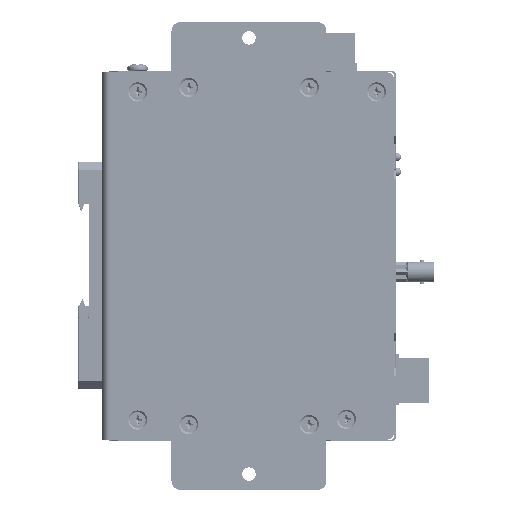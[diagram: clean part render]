
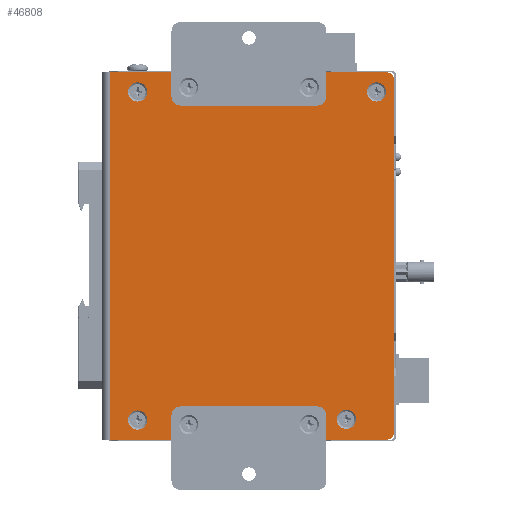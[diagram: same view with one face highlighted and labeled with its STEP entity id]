
A CAD part, left-side view. The second image highlights one B-rep face of the part: STEP entity #46808.
In plain terms, the highlighted planar face has unit normal (-1, 0, 0).
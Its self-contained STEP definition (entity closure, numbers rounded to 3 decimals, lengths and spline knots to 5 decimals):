
#2273=CIRCLE('',#54056,0.00324);
#2274=CIRCLE('',#54057,0.00324);
#2275=CIRCLE('',#54058,0.00324);
#2276=CIRCLE('',#54059,0.00324);
#2277=CIRCLE('',#54060,0.00324);
#2278=CIRCLE('',#54061,0.00324);
#2279=CIRCLE('',#54062,0.00324);
#2280=CIRCLE('',#54063,0.00324);
#2281=CIRCLE('',#54064,0.00254);
#2282=CIRCLE('',#54065,0.00254);
#4222=LINE('',#74973,#8763);
#4226=LINE('',#74982,#8767);
#4232=LINE('',#74996,#8773);
#4234=LINE('',#75018,#8775);
#8763=VECTOR('',#59066,1.);
#8767=VECTOR('',#59072,1.);
#8773=VECTOR('',#59080,1.);
#8775=VECTOR('',#59104,1.);
#14386=ORIENTED_EDGE('',*,*,#26967,.F.);
#14387=ORIENTED_EDGE('',*,*,#26968,.F.);
#14388=ORIENTED_EDGE('',*,*,#26969,.F.);
#14389=ORIENTED_EDGE('',*,*,#26970,.F.);
#14390=ORIENTED_EDGE('',*,*,#26971,.F.);
#14391=ORIENTED_EDGE('',*,*,#26972,.F.);
#14392=ORIENTED_EDGE('',*,*,#26973,.F.);
#14393=ORIENTED_EDGE('',*,*,#26974,.F.);
#14394=ORIENTED_EDGE('',*,*,#26965,.F.);
#14395=ORIENTED_EDGE('',*,*,#26975,.T.);
#14396=ORIENTED_EDGE('',*,*,#26955,.T.);
#14397=ORIENTED_EDGE('',*,*,#26976,.T.);
#14398=ORIENTED_EDGE('',*,*,#26959,.T.);
#14399=ORIENTED_EDGE('',*,*,#26977,.F.);
#26955=EDGE_CURVE('',#33414,#33415,#4222,.T.);
#26959=EDGE_CURVE('',#33418,#33419,#4226,.T.);
#26965=EDGE_CURVE('',#33424,#33425,#4232,.T.);
#26967=EDGE_CURVE('',#33426,#33426,#2273,.T.);
#26968=EDGE_CURVE('',#33427,#33427,#2274,.T.);
#26969=EDGE_CURVE('',#33428,#33428,#2275,.T.);
#26970=EDGE_CURVE('',#33429,#33429,#2276,.T.);
#26971=EDGE_CURVE('',#33430,#33430,#2277,.T.);
#26972=EDGE_CURVE('',#33431,#33431,#2278,.T.);
#26973=EDGE_CURVE('',#33432,#33432,#2279,.T.);
#26974=EDGE_CURVE('',#33433,#33433,#2280,.T.);
#26975=EDGE_CURVE('',#33424,#33414,#2281,.T.);
#26976=EDGE_CURVE('',#33415,#33418,#2282,.T.);
#26977=EDGE_CURVE('',#33425,#33419,#4234,.F.);
#33414=VERTEX_POINT('',#74974);
#33415=VERTEX_POINT('',#74975);
#33418=VERTEX_POINT('',#74983);
#33419=VERTEX_POINT('',#74984);
#33424=VERTEX_POINT('',#74995);
#33425=VERTEX_POINT('',#74997);
#33426=VERTEX_POINT('',#75001);
#33427=VERTEX_POINT('',#75003);
#33428=VERTEX_POINT('',#75005);
#33429=VERTEX_POINT('',#75007);
#33430=VERTEX_POINT('',#75009);
#33431=VERTEX_POINT('',#75011);
#33432=VERTEX_POINT('',#75013);
#33433=VERTEX_POINT('',#75015);
#38167=EDGE_LOOP('',(#14386));
#38168=EDGE_LOOP('',(#14387));
#38169=EDGE_LOOP('',(#14388));
#38170=EDGE_LOOP('',(#14389));
#38171=EDGE_LOOP('',(#14390));
#38172=EDGE_LOOP('',(#14391));
#38173=EDGE_LOOP('',(#14392));
#38174=EDGE_LOOP('',(#14393));
#38175=EDGE_LOOP('',(#14394,#14395,#14396,#14397,#14398,#14399));
#41652=FACE_BOUND('',#38167,.T.);
#41653=FACE_BOUND('',#38168,.T.);
#41654=FACE_BOUND('',#38169,.T.);
#41655=FACE_BOUND('',#38170,.T.);
#41656=FACE_BOUND('',#38171,.T.);
#41657=FACE_BOUND('',#38172,.T.);
#41658=FACE_BOUND('',#38173,.T.);
#41659=FACE_BOUND('',#38174,.T.);
#41660=FACE_BOUND('',#38175,.T.);
#44998=PLANE('',#54055);
#46808=ADVANCED_FACE('',(#41652,#41653,#41654,#41655,#41656,#41657,#41658,
#41659,#41660),#44998,.T.);
#54055=AXIS2_PLACEMENT_3D('',#74999,#59082,#59083);
#54056=AXIS2_PLACEMENT_3D('',#75000,#59084,#59085);
#54057=AXIS2_PLACEMENT_3D('',#75002,#59086,#59087);
#54058=AXIS2_PLACEMENT_3D('',#75004,#59088,#59089);
#54059=AXIS2_PLACEMENT_3D('',#75006,#59090,#59091);
#54060=AXIS2_PLACEMENT_3D('',#75008,#59092,#59093);
#54061=AXIS2_PLACEMENT_3D('',#75010,#59094,#59095);
#54062=AXIS2_PLACEMENT_3D('',#75012,#59096,#59097);
#54063=AXIS2_PLACEMENT_3D('',#75014,#59098,#59099);
#54064=AXIS2_PLACEMENT_3D('',#75016,#59100,#59101);
#54065=AXIS2_PLACEMENT_3D('',#75017,#59102,#59103);
#59066=DIRECTION('',(0.,0.,1.));
#59072=DIRECTION('',(0.,1.,0.));
#59080=DIRECTION('',(0.,1.,0.));
#59082=DIRECTION('',(-1.,0.,0.));
#59083=DIRECTION('',(0.,0.,1.));
#59084=DIRECTION('',(-1.,0.,0.));
#59085=DIRECTION('',(0.,0.,1.));
#59086=DIRECTION('',(-1.,0.,0.));
#59087=DIRECTION('',(0.,0.,1.));
#59088=DIRECTION('',(-1.,0.,0.));
#59089=DIRECTION('',(0.,0.,1.));
#59090=DIRECTION('',(-1.,0.,0.));
#59091=DIRECTION('',(0.,0.,1.));
#59092=DIRECTION('',(-1.,0.,0.));
#59093=DIRECTION('',(0.,0.,1.));
#59094=DIRECTION('',(-1.,0.,0.));
#59095=DIRECTION('',(0.,0.,1.));
#59096=DIRECTION('',(-1.,0.,0.));
#59097=DIRECTION('',(0.,0.,1.));
#59098=DIRECTION('',(-1.,0.,0.));
#59099=DIRECTION('',(0.,0.,1.));
#59100=DIRECTION('',(-1.,0.,0.));
#59101=DIRECTION('',(0.,0.,1.));
#59102=DIRECTION('',(-1.,0.,0.));
#59103=DIRECTION('',(0.,0.,1.));
#59104=DIRECTION('',(0.,0.,-1.));
#74973=CARTESIAN_POINT('',(-0.01524,-0.09703,0.));
#74974=CARTESIAN_POINT('',(-0.01524,-0.09703,-0.05944));
#74975=CARTESIAN_POINT('',(-0.01524,-0.09703,0.05944));
#74982=CARTESIAN_POINT('',(-0.01524,-0.09703,0.06198));
#74983=CARTESIAN_POINT('',(-0.01524,-0.09449,0.06198));
#74984=CARTESIAN_POINT('',(-0.01524,-0.00102,0.06198));
#74995=CARTESIAN_POINT('',(-0.01524,-0.09449,-0.06198));
#74996=CARTESIAN_POINT('',(-0.01524,-0.09703,-0.06198));
#74997=CARTESIAN_POINT('',(-0.01524,-0.00102,-0.06198));
#74999=CARTESIAN_POINT('',(-0.01524,-0.09703,0.));
#75000=CARTESIAN_POINT('',(-0.01524,-0.02769,0.0569));
#75001=CARTESIAN_POINT('',(-0.01524,-0.02769,0.06013));
#75002=CARTESIAN_POINT('',(-0.01524,-0.06833,0.0569));
#75003=CARTESIAN_POINT('',(-0.01524,-0.06833,0.06013));
#75004=CARTESIAN_POINT('',(-0.01524,-0.09106,0.05537));
#75005=CARTESIAN_POINT('',(-0.01524,-0.09106,0.05861));
#75006=CARTESIAN_POINT('',(-0.01524,-0.0809,-0.05512));
#75007=CARTESIAN_POINT('',(-0.01524,-0.0809,-0.05188));
#75008=CARTESIAN_POINT('',(-0.01524,-0.06833,-0.0569));
#75009=CARTESIAN_POINT('',(-0.01524,-0.06833,-0.05366));
#75010=CARTESIAN_POINT('',(-0.01524,-0.02769,-0.0569));
#75011=CARTESIAN_POINT('',(-0.01524,-0.02769,-0.05366));
#75012=CARTESIAN_POINT('',(-0.01524,-0.01041,-0.05537));
#75013=CARTESIAN_POINT('',(-0.01524,-0.01041,-0.05213));
#75014=CARTESIAN_POINT('',(-0.01524,-0.01041,0.05537));
#75015=CARTESIAN_POINT('',(-0.01524,-0.01041,0.05861));
#75016=CARTESIAN_POINT('',(-0.01524,-0.09449,-0.05944));
#75017=CARTESIAN_POINT('',(-0.01524,-0.09449,0.05944));
#75018=CARTESIAN_POINT('',(-0.01524,-0.00102,0.));
